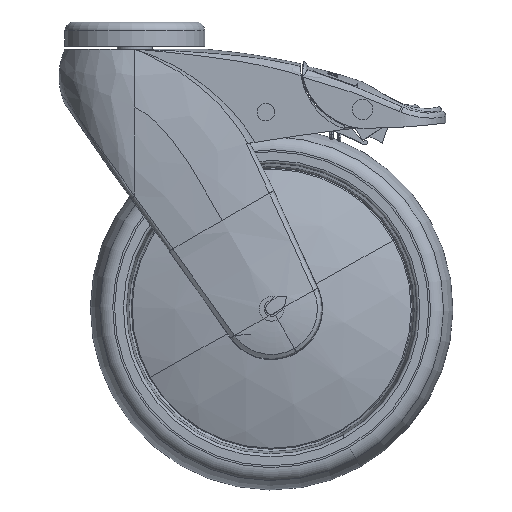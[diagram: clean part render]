
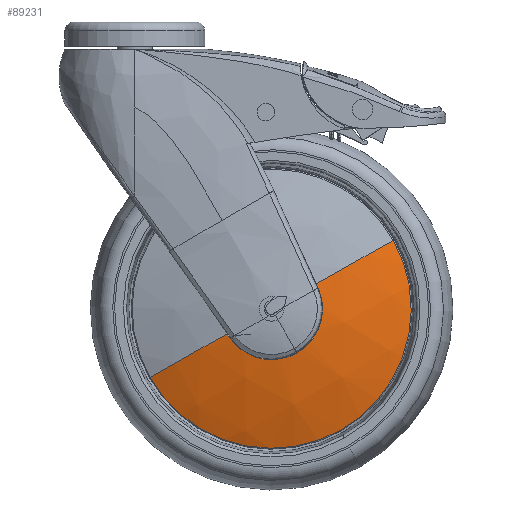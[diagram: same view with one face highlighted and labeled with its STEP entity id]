
A CAD part, front view. The second image highlights one B-rep face of the part: STEP entity #89231.
In plain terms, the highlighted spherical face has radius 136.86 mm.
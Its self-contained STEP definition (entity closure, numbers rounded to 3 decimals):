
#81610 = CARTESIAN_POINT ( 'NONE',  ( 8.581, -32.469, -46.153 ) ) ;
#81624 = CARTESIAN_POINT ( 'NONE',  ( 7.799, -32.462, -44.991 ) ) ;
#81645 = CARTESIAN_POINT ( 'NONE',  ( 64.853, -24.924, -12.906 ) ) ;
#81652 = CARTESIAN_POINT ( 'NONE',  ( -18.692, -24.924, -59.889 ) ) ;
#81668 = CIRCLE ( 'NONE', #81693, 17.476 ) ;
#81692 = CARTESIAN_POINT ( 'NONE',  ( 23.08, -32.469, -36.397 ) ) ;
#81693 = AXIS2_PLACEMENT_3D ( 'NONE', #81692, #81737, #81736 ) ;
#81721 = SPHERICAL_SURFACE ( 'NONE', #81779, 136.86 ) ;
#81722 = CARTESIAN_POINT ( 'NONE',  ( 38.948, -32.469, -29.076 ) ) ;
#81736 = DIRECTION ( 'NONE',  ( -0.872, 0., -0.49 ) ) ;
#81737 = DIRECTION ( 'NONE',  ( 0., 1., 0. ) ) ;
#81751 = DIRECTION ( 'NONE',  ( 0.872, 0., 0.49 ) ) ;
#81755 = CARTESIAN_POINT ( 'NONE',  ( 23.08, 103.27, -36.397 ) ) ;
#81756 = FACE_OUTER_BOUND ( 'NONE', #89245, .T. ) ;
#81757 = DIRECTION ( 'NONE',  ( 0.419, 0., -0.908 ) ) ;
#81758 = DIRECTION ( 'NONE',  ( 0.908, 0., 0.419 ) ) ;
#81759 = CARTESIAN_POINT ( 'NONE',  ( 38.948, 103.27, -29.076 ) ) ;
#81760 = AXIS2_PLACEMENT_3D ( 'NONE', #81759, #81758, #81757 ) ;
#81770 = CIRCLE ( 'NONE', #81760, 135.74 ) ;
#81774 = DIRECTION ( 'NONE',  ( 0.49, 0., -0.872 ) ) ;
#81779 = AXIS2_PLACEMENT_3D ( 'NONE', #81755, #81774, #81751 ) ;
#81802 = DIRECTION ( 'NONE',  ( -0.558, 0., 0.83 ) ) ;
#81803 = AXIS2_PLACEMENT_3D ( 'NONE', #81812, #81813, #81802 ) ;
#81804 = CIRCLE ( 'NONE', #81803, 135.74 ) ;
#81812 = CARTESIAN_POINT ( 'NONE',  ( 8.581, 103.27, -46.153 ) ) ;
#81813 = DIRECTION ( 'NONE',  ( -0.83, 0., -0.558 ) ) ;
#81833 = CARTESIAN_POINT ( 'NONE',  ( 38.361, -32.462, -27.804 ) ) ;
#81871 = CIRCLE ( 'NONE', #81901, 136.86 ) ;
#81881 = DIRECTION ( 'NONE',  ( 0.872, 0., 0.49 ) ) ;
#81882 = DIRECTION ( 'NONE',  ( -0.49, 0., 0.872 ) ) ;
#81883 = CARTESIAN_POINT ( 'NONE',  ( 23.08, 103.27, -36.397 ) ) ;
#81887 = DIRECTION ( 'NONE',  ( -0.872, 0., -0.49 ) ) ;
#81888 = DIRECTION ( 'NONE',  ( 0., 1., 0. ) ) ;
#81889 = CARTESIAN_POINT ( 'NONE',  ( 23.08, -24.924, -36.397 ) ) ;
#81890 = AXIS2_PLACEMENT_3D ( 'NONE', #81889, #81888, #81887 ) ;
#81891 = CIRCLE ( 'NONE', #81890, 47.925 ) ;
#81893 = AXIS2_PLACEMENT_3D ( 'NONE', #81883, #81882, #81881 ) ;
#81895 = DIRECTION ( 'NONE',  ( -0.872, 0., -0.49 ) ) ;
#81896 = DIRECTION ( 'NONE',  ( 0.49, 0., -0.872 ) ) ;
#81897 = CARTESIAN_POINT ( 'NONE',  ( 23.08, 103.27, -36.397 ) ) ;
#81900 = CIRCLE ( 'NONE', #81893, 136.86 ) ;
#81901 = AXIS2_PLACEMENT_3D ( 'NONE', #81897, #81896, #81895 ) ;
#89179 = VERTEX_POINT ( 'NONE', #81610 ) ;
#89180 = VERTEX_POINT ( 'NONE', #81624 ) ;
#89195 = VERTEX_POINT ( 'NONE', #81652 ) ;
#89196 = VERTEX_POINT ( 'NONE', #81645 ) ;
#89214 = EDGE_CURVE ( 'NONE', #89224, #89179, #81668, .T. ) ;
#89222 = ORIENTED_EDGE ( 'NONE', *, *, #89284, .F. ) ;
#89224 = VERTEX_POINT ( 'NONE', #81722 ) ;
#89228 = ORIENTED_EDGE ( 'NONE', *, *, #89247, .T. ) ;
#89229 = ORIENTED_EDGE ( 'NONE', *, *, #89286, .F. ) ;
#89230 = EDGE_CURVE ( 'NONE', #89287, #89224, #81770, .T. ) ;
#89231 = ADVANCED_FACE ( 'NONE', ( #81756 ), #81721, .T. ) ;
#89245 = EDGE_LOOP ( 'NONE', ( #89228, #89283, #89222, #89229, #89282, #89285 ) ) ;
#89247 = EDGE_CURVE ( 'NONE', #89179, #89180, #81804, .T. ) ;
#89281 = EDGE_CURVE ( 'NONE', #89180, #89195, #81871, .T. ) ;
#89282 = ORIENTED_EDGE ( 'NONE', *, *, #89230, .T. ) ;
#89283 = ORIENTED_EDGE ( 'NONE', *, *, #89281, .T. ) ;
#89284 = EDGE_CURVE ( 'NONE', #89196, #89195, #81891, .T. ) ;
#89285 = ORIENTED_EDGE ( 'NONE', *, *, #89214, .T. ) ;
#89286 = EDGE_CURVE ( 'NONE', #89287, #89196, #81900, .T. ) ;
#89287 = VERTEX_POINT ( 'NONE', #81833 ) ;
